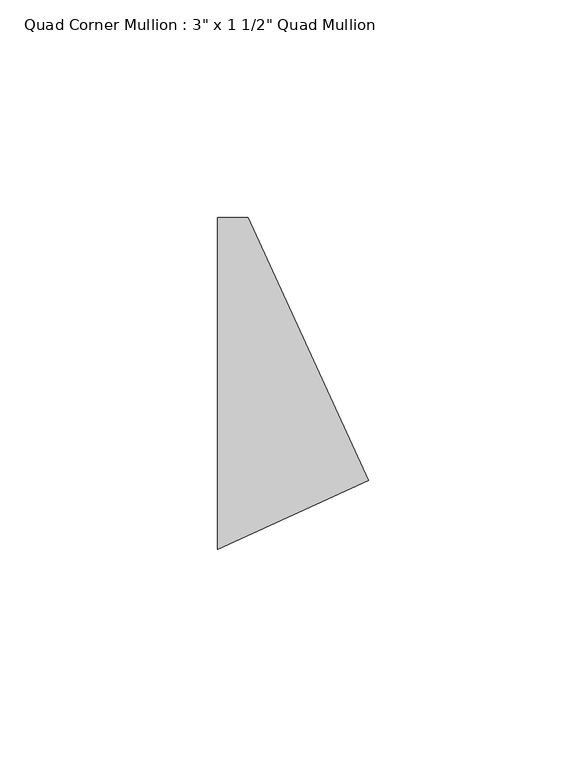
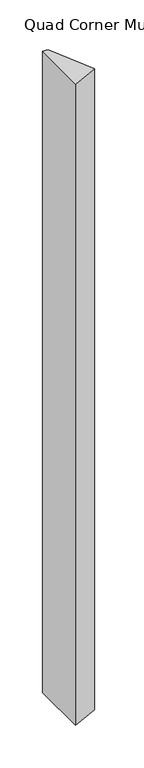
"""IFC4 building model written with IfcOpenShell, lengths in millimetres: member geometry."""

from ifc_helpers import new_model, si_unit, frame, origin, place, context, project, spatial, polyline, outline, extrude, source, transform, mapped, element, save


def member_a5deebae(model_context):
    return source(origin(), model_context, "Body", "SweptSolid", [
        extrude(outline(polyline([(31.130744, -22.2448055), (-3.5134879, -38.1), (-3.5134879, 38.1), (3.5134879, 38.1), (31.130744, -22.2448055)])), frame((0.0, 0.0, -910.9363636), z_axis=(0.0, 0.0, 1.0), x_axis=(1.0, 0.0, 0.0)), (0.0, 0.0, 1.0), 910.9363636),
    ])


if __name__ == "__main__":
    model = new_model("IFC4")
    model_context = context("Model", 3, world=origin())
    ifc_project = project(units=[si_unit("LENGTHUNIT", "METRE", prefix="MILLI")], contexts=[model_context])
    site = spatial("IfcSite", under=ifc_project)
    building = spatial("IfcBuilding", under=site)
    placement = place(None, origin())
    member_shape = member_a5deebae(model_context)
    element("IfcMember", 1, ObjectType="Quad Corner Mullion : 3\" x 1 1/2\" Quad Mullion", at=placement, inside=building, context=model_context, shape_type="MappedRepresentation", body=[
        mapped(member_shape, transform((0.0, 0.0, 0.0), x_axis=(1.0, 0.0, 0.0), y_axis=(0.0, 1.0, 0.0), z_axis=(0.0, 0.0, 1.0))),
    ])
    save(model, "model.ifc")
